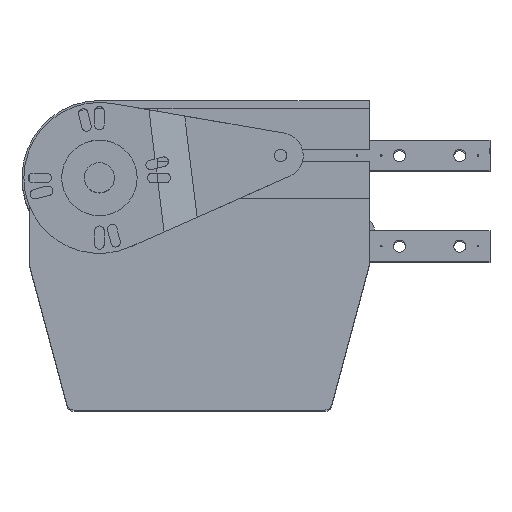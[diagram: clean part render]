
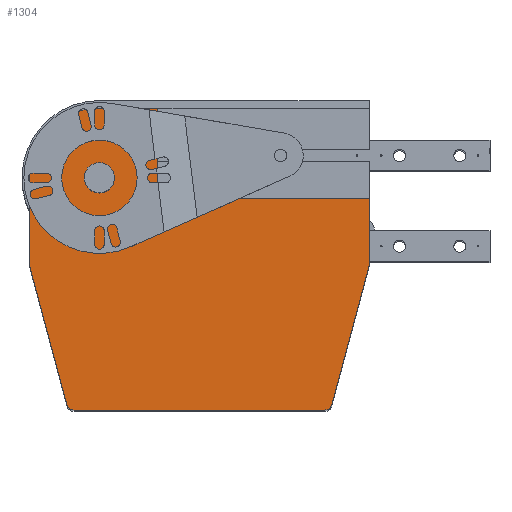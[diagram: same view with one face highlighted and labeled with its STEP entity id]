
A CAD part, top view. The second image highlights one B-rep face of the part: STEP entity #1304.
In plain terms, the highlighted planar face has unit normal (0, 0, 1).
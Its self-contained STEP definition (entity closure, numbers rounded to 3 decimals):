
#6 = CARTESIAN_POINT ( 'NONE',  ( 230., -65., 272. ) ) ;
#47 = CARTESIAN_POINT ( 'NONE',  ( 51.3, -51.3, 272. ) ) ;
#70 = CARTESIAN_POINT ( 'NONE',  ( 51.3, -51.3, 272. ) ) ;
#87 = DIRECTION ( 'NONE',  ( 0., 0., 1. ) ) ;
#89 = ORIENTED_EDGE ( 'NONE', *, *, #3255, .T. ) ;
#147 = VECTOR ( 'NONE', #6819, 1000. ) ;
#235 = AXIS2_PLACEMENT_3D ( 'NONE', #706, #1316, #5652 ) ;
#283 = EDGE_CURVE ( 'NONE', #5617, #3755, #7932, .T. ) ;
#430 = EDGE_CURVE ( 'NONE', #2354, #2923, #825, .T. ) ;
#614 = AXIS2_PLACEMENT_3D ( 'NONE', #47, #5661, #6924 ) ;
#683 = CARTESIAN_POINT ( 'NONE',  ( 34.56, -205., 272. ) ) ;
#706 = CARTESIAN_POINT ( 'NONE',  ( 51.3, -51.3, 272. ) ) ;
#718 = LINE ( 'NONE', #1603, #7739 ) ;
#825 = LINE ( 'NONE', #7271, #5398 ) ;
#860 = ORIENTED_EDGE ( 'NONE', *, *, #8041, .T. ) ;
#1057 = ORIENTED_EDGE ( 'NONE', *, *, #4203, .T. ) ;
#1138 = DIRECTION ( 'NONE',  ( -1., 0., 0. ) ) ;
#1269 = EDGE_CURVE ( 'NONE', #2025, #2312, #2269, .T. ) ;
#1304 = ADVANCED_FACE ( 'NONE', ( #2749, #7218 ), #5191, .F. ) ;
#1316 = DIRECTION ( 'NONE',  ( 0., 0., -1. ) ) ;
#1373 = DIRECTION ( 'NONE',  ( -1., 0., 0. ) ) ;
#1389 = ORIENTED_EDGE ( 'NONE', *, *, #283, .T. ) ;
#1444 = CIRCLE ( 'NONE', #614, 46.3 ) ;
#1534 = CARTESIAN_POINT ( 'NONE',  ( 90., -46.4, 272. ) ) ;
#1552 = ORIENTED_EDGE ( 'NONE', *, *, #7681, .T. ) ;
#1603 = CARTESIAN_POINT ( 'NONE',  ( 5.17, -109.636, 272. ) ) ;
#1728 = AXIS2_PLACEMENT_3D ( 'NONE', #4364, #87, #4933 ) ;
#2025 = VERTEX_POINT ( 'NONE', #7645 ) ;
#2048 = ORIENTED_EDGE ( 'NONE', *, *, #2228, .T. ) ;
#2084 = DIRECTION ( 'NONE',  ( -1., 0., 0. ) ) ;
#2100 = VECTOR ( 'NONE', #5465, 1000. ) ;
#2163 = DIRECTION ( 'NONE',  ( -1., 0., 0. ) ) ;
#2228 = EDGE_CURVE ( 'NONE', #4190, #6087, #4563, .T. ) ;
#2269 = CIRCLE ( 'NONE', #3027, 5. ) ;
#2312 = VERTEX_POINT ( 'NONE', #4790 ) ;
#2331 = CIRCLE ( 'NONE', #1728, 5. ) ;
#2354 = VERTEX_POINT ( 'NONE', #5422 ) ;
#2442 = DIRECTION ( 'NONE',  ( 0.259, 0.966, 0. ) ) ;
#2584 = CARTESIAN_POINT ( 'NONE',  ( 90., -5., 272. ) ) ;
#2641 = VERTEX_POINT ( 'NONE', #6638 ) ;
#2745 = CARTESIAN_POINT ( 'NONE',  ( 230., -109., 272. ) ) ;
#2749 = FACE_BOUND ( 'NONE', #3476, .T. ) ;
#2896 = EDGE_CURVE ( 'NONE', #3755, #5617, #3534, .T. ) ;
#2923 = VERTEX_POINT ( 'NONE', #5089 ) ;
#2925 = DIRECTION ( 'NONE',  ( 0., -1., 0. ) ) ;
#3027 = AXIS2_PLACEMENT_3D ( 'NONE', #3881, #6407, #2084 ) ;
#3201 = ORIENTED_EDGE ( 'NONE', *, *, #3404, .T. ) ;
#3216 = AXIS2_PLACEMENT_3D ( 'NONE', #7926, #4867, #1138 ) ;
#3218 = DIRECTION ( 'NONE',  ( 0., 0., -1. ) ) ;
#3255 = EDGE_CURVE ( 'NONE', #2312, #4158, #4013, .T. ) ;
#3326 = VERTEX_POINT ( 'NONE', #5195 ) ;
#3379 = ORIENTED_EDGE ( 'NONE', *, *, #7433, .T. ) ;
#3404 = EDGE_CURVE ( 'NONE', #5646, #7944, #4490, .T. ) ;
#3415 = CARTESIAN_POINT ( 'NONE',  ( 61.3, -51.3, 272. ) ) ;
#3476 = EDGE_LOOP ( 'NONE', ( #1389, #7166 ) ) ;
#3534 = CIRCLE ( 'NONE', #235, 10. ) ;
#3585 = ORIENTED_EDGE ( 'NONE', *, *, #5817, .T. ) ;
#3687 = CARTESIAN_POINT ( 'NONE',  ( 51.3, -5., 272. ) ) ;
#3755 = VERTEX_POINT ( 'NONE', #3916 ) ;
#3831 = CIRCLE ( 'NONE', #3216, 5. ) ;
#3881 = CARTESIAN_POINT ( 'NONE',  ( 34.56, -200., 272. ) ) ;
#3916 = CARTESIAN_POINT ( 'NONE',  ( 41.3, -51.3, 272. ) ) ;
#4013 = LINE ( 'NONE', #683, #6941 ) ;
#4057 = ORIENTED_EDGE ( 'NONE', *, *, #6514, .T. ) ;
#4158 = VERTEX_POINT ( 'NONE', #7375 ) ;
#4176 = VECTOR ( 'NONE', #7786, 1000. ) ;
#4190 = VERTEX_POINT ( 'NONE', #8048 ) ;
#4203 = EDGE_CURVE ( 'NONE', #7944, #4190, #6962, .T. ) ;
#4364 = CARTESIAN_POINT ( 'NONE',  ( 10., -108.342, 272. ) ) ;
#4490 = LINE ( 'NONE', #6945, #7321 ) ;
#4563 = LINE ( 'NONE', #1534, #4176 ) ;
#4790 = CARTESIAN_POINT ( 'NONE',  ( 34.56, -205., 272. ) ) ;
#4867 = DIRECTION ( 'NONE',  ( 0., 0., 1. ) ) ;
#4919 = CARTESIAN_POINT ( 'NONE',  ( 230., -109., 272. ) ) ;
#4933 = DIRECTION ( 'NONE',  ( -1., 0., 0. ) ) ;
#5048 = CARTESIAN_POINT ( 'NONE',  ( 51.3, -5., 272. ) ) ;
#5089 = CARTESIAN_POINT ( 'NONE',  ( 5., -108.342, 272. ) ) ;
#5191 = PLANE ( 'NONE',  #6202 ) ;
#5195 = CARTESIAN_POINT ( 'NONE',  ( 5.17, -109.636, 272. ) ) ;
#5215 = VECTOR ( 'NONE', #2442, 1000. ) ;
#5251 = DIRECTION ( 'NONE',  ( 0., 0., -1. ) ) ;
#5398 = VECTOR ( 'NONE', #2925, 1000. ) ;
#5422 = CARTESIAN_POINT ( 'NONE',  ( 5., -51.3, 272. ) ) ;
#5447 = DIRECTION ( 'NONE',  ( 0.259, -0.966, 0. ) ) ;
#5465 = DIRECTION ( 'NONE',  ( -1., 0., 0. ) ) ;
#5617 = VERTEX_POINT ( 'NONE', #3415 ) ;
#5646 = VERTEX_POINT ( 'NONE', #2745 ) ;
#5652 = DIRECTION ( 'NONE',  ( -1., 0., 0. ) ) ;
#5661 = DIRECTION ( 'NONE',  ( 0., 0., 1. ) ) ;
#5817 = EDGE_CURVE ( 'NONE', #2923, #3326, #2331, .T. ) ;
#5927 = CARTESIAN_POINT ( 'NONE',  ( 200.44, -200., 272. ) ) ;
#6087 = VERTEX_POINT ( 'NONE', #2584 ) ;
#6111 = EDGE_CURVE ( 'NONE', #7930, #2354, #1444, .T. ) ;
#6167 = LINE ( 'NONE', #5048, #147 ) ;
#6202 = AXIS2_PLACEMENT_3D ( 'NONE', #5927, #5251, #2163 ) ;
#6298 = EDGE_LOOP ( 'NONE', ( #2048, #860, #6597, #7569, #3585, #1552, #7766, #89, #3379, #4057, #3201, #1057 ) ) ;
#6407 = DIRECTION ( 'NONE',  ( 0., 0., 1. ) ) ;
#6431 = DIRECTION ( 'NONE',  ( 0., 1., 0. ) ) ;
#6514 = EDGE_CURVE ( 'NONE', #2641, #5646, #7164, .T. ) ;
#6597 = ORIENTED_EDGE ( 'NONE', *, *, #6111, .T. ) ;
#6638 = CARTESIAN_POINT ( 'NONE',  ( 205.27, -201.294, 272. ) ) ;
#6797 = CARTESIAN_POINT ( 'NONE',  ( 230., -65., 272. ) ) ;
#6819 = DIRECTION ( 'NONE',  ( -1., 0., 0. ) ) ;
#6924 = DIRECTION ( 'NONE',  ( -1., 0., 0. ) ) ;
#6941 = VECTOR ( 'NONE', #7429, 1000. ) ;
#6945 = CARTESIAN_POINT ( 'NONE',  ( 230., -106.4, 272. ) ) ;
#6962 = LINE ( 'NONE', #6, #2100 ) ;
#6985 = AXIS2_PLACEMENT_3D ( 'NONE', #70, #3218, #1373 ) ;
#7164 = LINE ( 'NONE', #4919, #5215 ) ;
#7166 = ORIENTED_EDGE ( 'NONE', *, *, #2896, .T. ) ;
#7218 = FACE_OUTER_BOUND ( 'NONE', #6298, .T. ) ;
#7271 = CARTESIAN_POINT ( 'NONE',  ( 5., -51.3, 272. ) ) ;
#7321 = VECTOR ( 'NONE', #6431, 1000. ) ;
#7375 = CARTESIAN_POINT ( 'NONE',  ( 200.44, -205., 272. ) ) ;
#7429 = DIRECTION ( 'NONE',  ( 1., 0., 0. ) ) ;
#7433 = EDGE_CURVE ( 'NONE', #4158, #2641, #3831, .T. ) ;
#7569 = ORIENTED_EDGE ( 'NONE', *, *, #430, .T. ) ;
#7645 = CARTESIAN_POINT ( 'NONE',  ( 29.73, -201.294, 272. ) ) ;
#7681 = EDGE_CURVE ( 'NONE', #3326, #2025, #718, .T. ) ;
#7739 = VECTOR ( 'NONE', #5447, 1000. ) ;
#7766 = ORIENTED_EDGE ( 'NONE', *, *, #1269, .T. ) ;
#7786 = DIRECTION ( 'NONE',  ( 0., 1., 0. ) ) ;
#7926 = CARTESIAN_POINT ( 'NONE',  ( 200.44, -200., 272. ) ) ;
#7930 = VERTEX_POINT ( 'NONE', #3687 ) ;
#7932 = CIRCLE ( 'NONE', #6985, 10. ) ;
#7944 = VERTEX_POINT ( 'NONE', #6797 ) ;
#8041 = EDGE_CURVE ( 'NONE', #6087, #7930, #6167, .T. ) ;
#8048 = CARTESIAN_POINT ( 'NONE',  ( 90., -65., 272. ) ) ;
